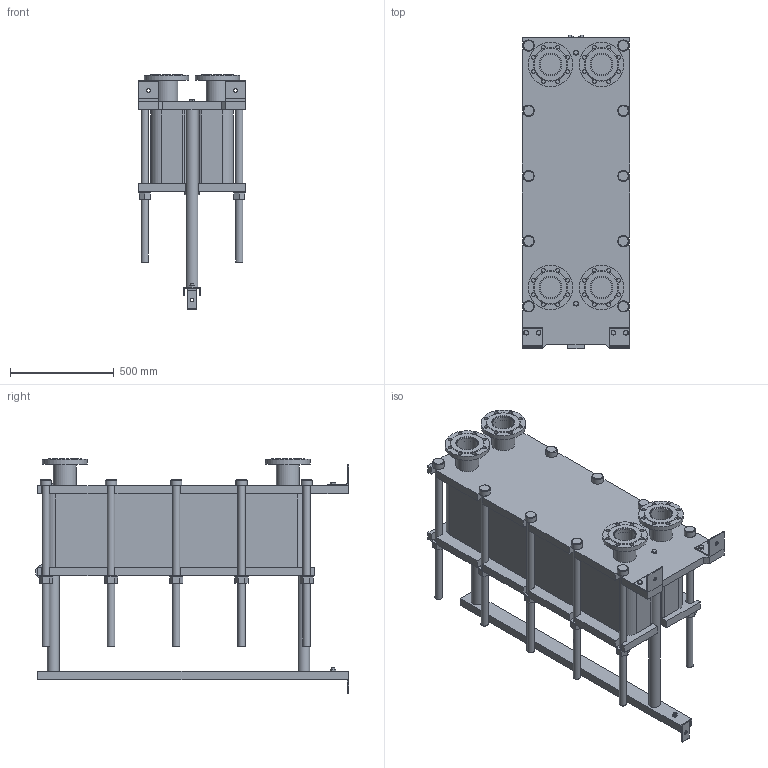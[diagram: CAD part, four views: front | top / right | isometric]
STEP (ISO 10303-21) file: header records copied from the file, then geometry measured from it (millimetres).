
FILE_DESCRIPTION(/* description */ (''),/* implementation_level */ '2;1');
FILE_NAME(/* name */ 'C:\Users\zhuro\Desktop\ENCO\TO\ЭН-04\ЭН-0,5-04-103-1.stp',/* time_stamp */ '2022-06-06T10:54:17+03:00',/* author */ ('zhuro'),/* organization */ (''),/* preprocessor_version */ 'ST-DEVELOPER v18.1',/* originating_system */ 'Autodesk Inventor 2022',/* authorisation */ '');
FILE_SCHEMA (('AUTOMOTIVE_DESIGN { 1 0 10303 214 3 1 1 }'));
Length unit declared in the file: millimetre
Products named in the file (1): ЭН-0,5-04-103-1
Bounding box: 520 x 1510 x 1131.5 mm (x, y, z)
Volume: 248955662.4 mm3; surface area: 8421232.2 mm2
Topology: 45 solids, 45 shells, 668 faces, 1611 edges, 1048 vertices
Faces by surface type: plane 457, cylinder 166, cone 39, torus 6
Full cylindrical faces by diameter (mm): 8 x4, 10 x2, 16 x8, 18 x35, 36 x25, 40 x2, 42 x1, 45 x4, 54 x10, 57 x2, 60 x10, 68 x2, 100 x4, 110 x8, 215 x4
Entity records: 23607 total; most frequent: CARTESIAN_POINT 7348, DIRECTION 3371, ORIENTED_EDGE 3142, EDGE_CURVE 1571, AXIS2_PLACEMENT_3D 1199, VERTEX_POINT 1044, LINE 973, VECTOR 973
